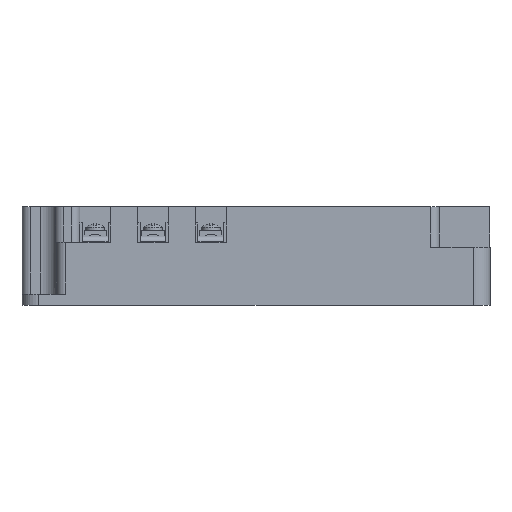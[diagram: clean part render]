
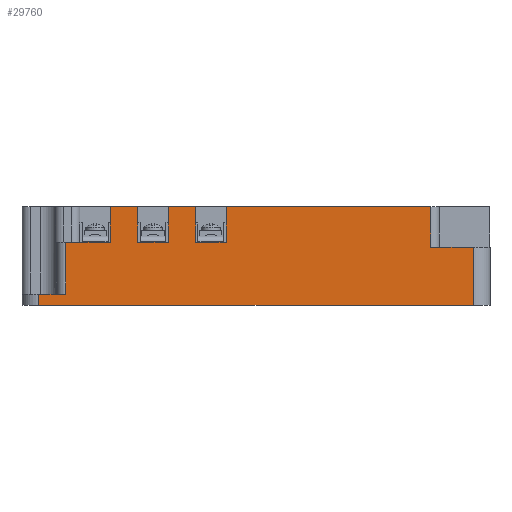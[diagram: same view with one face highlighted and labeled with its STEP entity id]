
A CAD part, left-side view. The second image highlights one B-rep face of the part: STEP entity #29760.
In plain terms, the highlighted planar face has unit normal (-1, 0, 0).
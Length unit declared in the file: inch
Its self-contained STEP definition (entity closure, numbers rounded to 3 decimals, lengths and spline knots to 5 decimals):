
#1364=PLANE('',#31421);
#2789=FACE_OUTER_BOUND('',#4343,.T.);
#4343=EDGE_LOOP('',(#25823,#25824,#25825,#25826,#25827,#25828,#25829,#25830,
#25831,#25832,#25833,#25834,#25835,#25836,#25837,#25838,#25839,#25840));
#7587=LINE('',#45123,#11451);
#7657=LINE('',#45286,#11521);
#7661=LINE('',#45294,#11525);
#7665=LINE('',#45302,#11529);
#7711=LINE('',#45395,#11575);
#7712=LINE('',#45399,#11576);
#7716=LINE('',#45406,#11580);
#7719=LINE('',#45411,#11583);
#7720=LINE('',#45415,#11584);
#7724=LINE('',#45422,#11588);
#7727=LINE('',#45427,#11591);
#7738=LINE('',#45452,#11602);
#7739=LINE('',#45454,#11603);
#7740=LINE('',#45456,#11604);
#7741=LINE('',#45458,#11605);
#7742=LINE('',#45460,#11606);
#7743=LINE('',#45462,#11607);
#7744=LINE('',#45463,#11608);
#11451=VECTOR('',#36892,0.3937);
#11521=VECTOR('',#37024,0.3937);
#11525=VECTOR('',#37028,0.3937);
#11529=VECTOR('',#37032,0.3937);
#11575=VECTOR('',#37096,0.3937);
#11576=VECTOR('',#37099,0.3937);
#11580=VECTOR('',#37105,0.3937);
#11583=VECTOR('',#37112,0.3937);
#11584=VECTOR('',#37115,0.3937);
#11588=VECTOR('',#37121,0.3937);
#11591=VECTOR('',#37128,0.3937);
#11602=VECTOR('',#37157,0.3937);
#11603=VECTOR('',#37158,0.3937);
#11604=VECTOR('',#37159,0.3937);
#11605=VECTOR('',#37160,0.3937);
#11606=VECTOR('',#37161,0.3937);
#11607=VECTOR('',#37162,0.3937);
#11608=VECTOR('',#37163,0.3937);
#14716=VERTEX_POINT('',#45120);
#14717=VERTEX_POINT('',#45122);
#14778=VERTEX_POINT('',#45283);
#14779=VERTEX_POINT('',#45285);
#14782=VERTEX_POINT('',#45291);
#14783=VERTEX_POINT('',#45293);
#14786=VERTEX_POINT('',#45299);
#14787=VERTEX_POINT('',#45301);
#14826=VERTEX_POINT('',#45397);
#14827=VERTEX_POINT('',#45398);
#14830=VERTEX_POINT('',#45413);
#14831=VERTEX_POINT('',#45414);
#14838=VERTEX_POINT('',#45451);
#14839=VERTEX_POINT('',#45453);
#14840=VERTEX_POINT('',#45455);
#14841=VERTEX_POINT('',#45457);
#14842=VERTEX_POINT('',#45459);
#14843=VERTEX_POINT('',#45461);
#18490=EDGE_CURVE('',#14717,#14716,#7587,.T.);
#18571=EDGE_CURVE('',#14778,#14779,#7657,.T.);
#18575=EDGE_CURVE('',#14782,#14783,#7661,.T.);
#18579=EDGE_CURVE('',#14786,#14787,#7665,.T.);
#18627=EDGE_CURVE('',#14778,#14717,#7711,.T.);
#18628=EDGE_CURVE('',#14826,#14827,#7712,.T.);
#18632=EDGE_CURVE('',#14827,#14783,#7716,.T.);
#18635=EDGE_CURVE('',#14786,#14826,#7719,.T.);
#18636=EDGE_CURVE('',#14830,#14831,#7720,.T.);
#18640=EDGE_CURVE('',#14831,#14779,#7724,.T.);
#18643=EDGE_CURVE('',#14782,#14830,#7727,.T.);
#18654=EDGE_CURVE('',#14838,#14716,#7738,.T.);
#18655=EDGE_CURVE('',#14838,#14839,#7739,.T.);
#18656=EDGE_CURVE('',#14840,#14839,#7740,.T.);
#18657=EDGE_CURVE('',#14840,#14841,#7741,.T.);
#18658=EDGE_CURVE('',#14841,#14842,#7742,.T.);
#18659=EDGE_CURVE('',#14842,#14843,#7743,.T.);
#18660=EDGE_CURVE('',#14843,#14787,#7744,.T.);
#25823=ORIENTED_EDGE('',*,*,#18490,.T.);
#25824=ORIENTED_EDGE('',*,*,#18654,.F.);
#25825=ORIENTED_EDGE('',*,*,#18655,.T.);
#25826=ORIENTED_EDGE('',*,*,#18656,.F.);
#25827=ORIENTED_EDGE('',*,*,#18657,.T.);
#25828=ORIENTED_EDGE('',*,*,#18658,.T.);
#25829=ORIENTED_EDGE('',*,*,#18659,.T.);
#25830=ORIENTED_EDGE('',*,*,#18660,.T.);
#25831=ORIENTED_EDGE('',*,*,#18579,.F.);
#25832=ORIENTED_EDGE('',*,*,#18635,.T.);
#25833=ORIENTED_EDGE('',*,*,#18628,.T.);
#25834=ORIENTED_EDGE('',*,*,#18632,.T.);
#25835=ORIENTED_EDGE('',*,*,#18575,.F.);
#25836=ORIENTED_EDGE('',*,*,#18643,.T.);
#25837=ORIENTED_EDGE('',*,*,#18636,.T.);
#25838=ORIENTED_EDGE('',*,*,#18640,.T.);
#25839=ORIENTED_EDGE('',*,*,#18571,.F.);
#25840=ORIENTED_EDGE('',*,*,#18627,.T.);
#29760=ADVANCED_FACE('',(#2789),#1364,.T.);
#31421=AXIS2_PLACEMENT_3D('',#45450,#37155,#37156);
#36892=DIRECTION('',(0.,1.,0.));
#37024=DIRECTION('',(0.,-1.,0.));
#37028=DIRECTION('',(0.,-1.,0.));
#37032=DIRECTION('',(0.,-1.,0.));
#37096=DIRECTION('',(0.,0.,-1.));
#37099=DIRECTION('',(0.,1.,0.));
#37105=DIRECTION('',(0.,0.,1.));
#37112=DIRECTION('',(0.,0.,-1.));
#37115=DIRECTION('',(0.,1.,0.));
#37121=DIRECTION('',(0.,0.,1.));
#37128=DIRECTION('',(0.,0.,-1.));
#37155=DIRECTION('center_axis',(-1.,0.,0.));
#37156=DIRECTION('ref_axis',(0.,0.,1.));
#37157=DIRECTION('',(0.,0.,1.));
#37158=DIRECTION('',(0.,1.,0.));
#37159=DIRECTION('',(0.,0.,1.));
#37160=DIRECTION('',(0.,-1.,0.));
#37161=DIRECTION('',(0.,0.,1.));
#37162=DIRECTION('',(0.,1.,0.));
#37163=DIRECTION('',(0.,0.,1.));
#45120=CARTESIAN_POINT('',(0.,5.895,0.8755));
#45122=CARTESIAN_POINT('',(0.,5.272,0.8755));
#45123=CARTESIAN_POINT('',(0.,5.272,0.8755));
#45283=CARTESIAN_POINT('',(0.,5.272,1.375));
#45285=CARTESIAN_POINT('',(0.,4.893,1.375));
#45286=CARTESIAN_POINT('',(0.,5.272,1.375));
#45291=CARTESIAN_POINT('',(0.,4.469,1.375));
#45293=CARTESIAN_POINT('',(0.,4.089,1.375));
#45294=CARTESIAN_POINT('',(0.,4.469,1.375));
#45299=CARTESIAN_POINT('',(0.,3.665,1.375));
#45301=CARTESIAN_POINT('',(0.,0.8255,1.375));
#45302=CARTESIAN_POINT('',(0.,3.665,1.375));
#45395=CARTESIAN_POINT('',(0.,5.272,1.375));
#45397=CARTESIAN_POINT('',(0.,3.665,0.8755));
#45398=CARTESIAN_POINT('',(0.,4.089,0.8755));
#45399=CARTESIAN_POINT('',(0.,3.665,0.8755));
#45406=CARTESIAN_POINT('',(0.,4.089,0.8755));
#45411=CARTESIAN_POINT('',(0.,3.665,1.375));
#45413=CARTESIAN_POINT('',(0.,4.469,0.8755));
#45414=CARTESIAN_POINT('',(0.,4.893,0.8755));
#45415=CARTESIAN_POINT('',(0.,4.469,0.8755));
#45422=CARTESIAN_POINT('',(0.,4.893,0.8755));
#45427=CARTESIAN_POINT('',(0.,4.469,1.375));
#45450=CARTESIAN_POINT('Origin',(0.,3.25,0.));
#45451=CARTESIAN_POINT('',(0.,5.895,0.1575));
#45452=CARTESIAN_POINT('',(0.,5.895,0.1575));
#45453=CARTESIAN_POINT('',(0.,6.27,0.1575));
#45454=CARTESIAN_POINT('',(0.,5.895,0.1575));
#45455=CARTESIAN_POINT('',(0.,6.27,0.));
#45456=CARTESIAN_POINT('',(0.,6.27,0.));
#45457=CARTESIAN_POINT('',(0.,0.23,0.));
#45458=CARTESIAN_POINT('',(0.,6.27,0.));
#45459=CARTESIAN_POINT('',(0.,0.23,0.809));
#45460=CARTESIAN_POINT('',(0.,0.23,0.));
#45461=CARTESIAN_POINT('',(0.,0.8255,0.809));
#45462=CARTESIAN_POINT('',(0.,0.23,0.809));
#45463=CARTESIAN_POINT('',(0.,0.8255,0.809));
